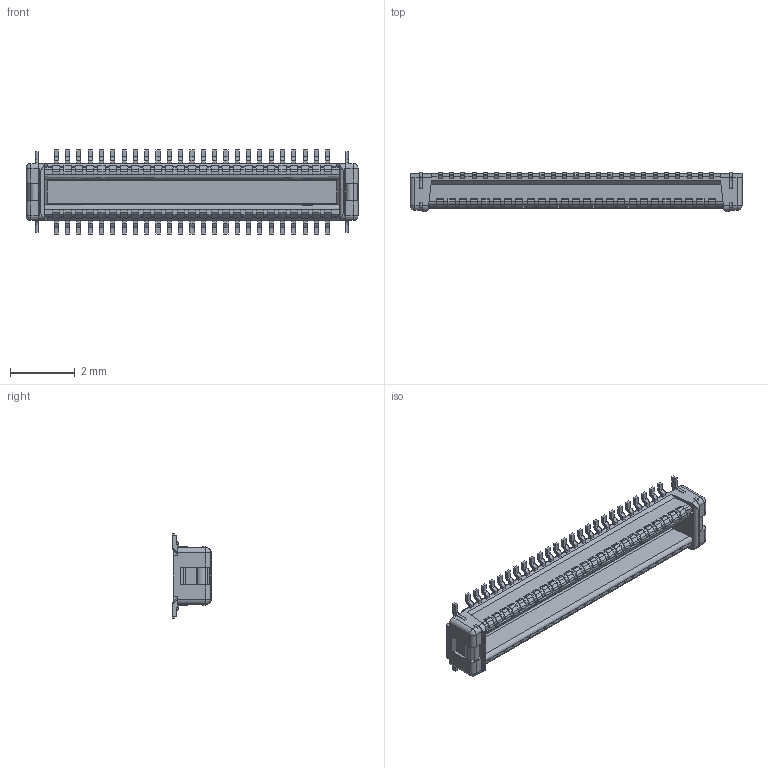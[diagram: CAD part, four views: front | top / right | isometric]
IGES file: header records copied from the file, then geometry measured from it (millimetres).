
Start section: SolidWorks IGES file using analytic representation for surfaces
Global section: file name: C:\3dwork\fukushima\001-1 NOVA35 量産モデル【小芯数&ハイト追加】\3Dmodel\50P\20842-050E-01-PLUG ASS'Y 3Dmodel IGES.IGS; native system: SolidWorks 2017; preprocessor: SolidWorks 2017; author: ipxcad-014; date: 180607.144112; units: millimetre
Bounding box: 10.27 x 1.23 x 2.6 mm (x, y, z)
Surface area: 87.7 mm2 (no closed solid volume)
Topology: 0 solids, 0 shells, 1378 faces, 9480 edges, 9476 vertices
Faces by surface type: bspline 870, revolution 508
